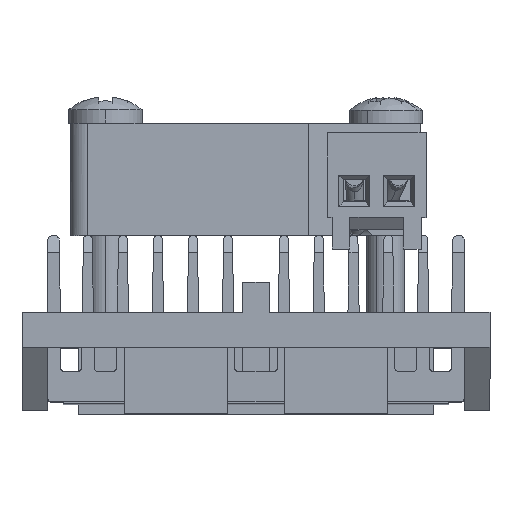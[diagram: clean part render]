
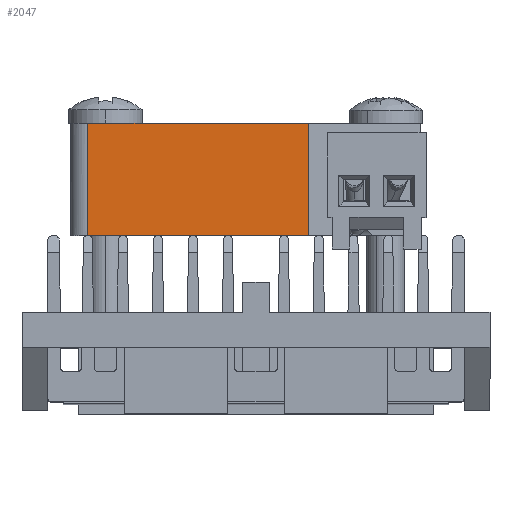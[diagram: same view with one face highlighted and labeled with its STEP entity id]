
A CAD part, top view. The second image highlights one B-rep face of the part: STEP entity #2047.
In plain terms, the highlighted planar face has unit normal (0, 0, 1).
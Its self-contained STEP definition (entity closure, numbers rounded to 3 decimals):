
#82 = CARTESIAN_POINT ( 'NONE',  ( 17.9, 24.541, 27.696 ) ) ;
#184 = EDGE_CURVE ( 'NONE', #4979, #10554, #9718, .T. ) ;
#193 = EDGE_CURVE ( 'NONE', #5673, #4979, #18483, .T. ) ;
#1349 = EDGE_CURVE ( 'NONE', #10195, #5673, #3583, .T. ) ;
#1954 = DIRECTION ( 'NONE',  ( 0., -1., 0. ) ) ;
#2047 = ADVANCED_FACE ( 'NONE', ( #13383 ), #19989, .F. ) ;
#2413 = VECTOR ( 'NONE', #5417, 1000. ) ;
#2537 = VECTOR ( 'NONE', #6489, 1000. ) ;
#3506 = CARTESIAN_POINT ( 'NONE',  ( 11.5, 18.141, 27.696 ) ) ;
#3583 = LINE ( 'NONE', #82, #12766 ) ;
#4979 = VERTEX_POINT ( 'NONE', #3506 ) ;
#5417 = DIRECTION ( 'NONE',  ( 0., 1., 0. ) ) ;
#5520 = DIRECTION ( 'NONE',  ( 0., -1., 0. ) ) ;
#5673 = VERTEX_POINT ( 'NONE', #6086 ) ;
#6086 = CARTESIAN_POINT ( 'NONE',  ( 11.5, 24.541, 27.696 ) ) ;
#6489 = DIRECTION ( 'NONE',  ( -1., 0., 0. ) ) ;
#6999 = DIRECTION ( 'NONE',  ( 0., 0., -1. ) ) ;
#7543 = CARTESIAN_POINT ( 'NONE',  ( -1.1, 24.541, 27.696 ) ) ;
#8109 = CARTESIAN_POINT ( 'NONE',  ( 7.9, 18.141, 27.696 ) ) ;
#8525 = LINE ( 'NONE', #15120, #2413 ) ;
#9597 = ORIENTED_EDGE ( 'NONE', *, *, #18287, .F. ) ;
#9718 = LINE ( 'NONE', #8109, #2537 ) ;
#9836 = CARTESIAN_POINT ( 'NONE',  ( -1.1, 18.141, 27.696 ) ) ;
#10195 = VERTEX_POINT ( 'NONE', #7543 ) ;
#10554 = VERTEX_POINT ( 'NONE', #9836 ) ;
#11641 = AXIS2_PLACEMENT_3D ( 'NONE', #11974, #6999, #5520 ) ;
#11974 = CARTESIAN_POINT ( 'NONE',  ( 17.9, 24.641, 27.696 ) ) ;
#12766 = VECTOR ( 'NONE', #16739, 1000. ) ;
#13383 = FACE_OUTER_BOUND ( 'NONE', #18429, .T. ) ;
#15120 = CARTESIAN_POINT ( 'NONE',  ( -1.1, 24.641, 27.696 ) ) ;
#16270 = ORIENTED_EDGE ( 'NONE', *, *, #193, .F. ) ;
#16739 = DIRECTION ( 'NONE',  ( 1., 0., 0. ) ) ;
#18287 = EDGE_CURVE ( 'NONE', #10554, #10195, #8525, .T. ) ;
#18397 = VECTOR ( 'NONE', #1954, 1000. ) ;
#18429 = EDGE_LOOP ( 'NONE', ( #21313, #9597, #19536, #16270 ) ) ;
#18483 = LINE ( 'NONE', #18595, #18397 ) ;
#18595 = CARTESIAN_POINT ( 'NONE',  ( 11.5, 24.641, 27.696 ) ) ;
#19536 = ORIENTED_EDGE ( 'NONE', *, *, #184, .F. ) ;
#19989 = PLANE ( 'NONE',  #11641 ) ;
#21313 = ORIENTED_EDGE ( 'NONE', *, *, #1349, .F. ) ;
